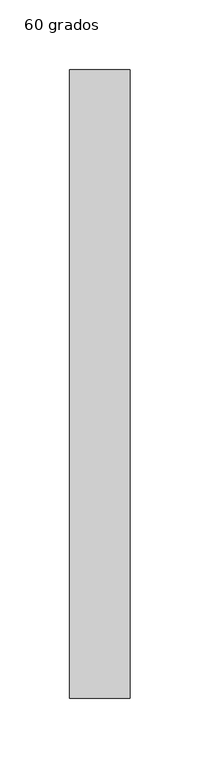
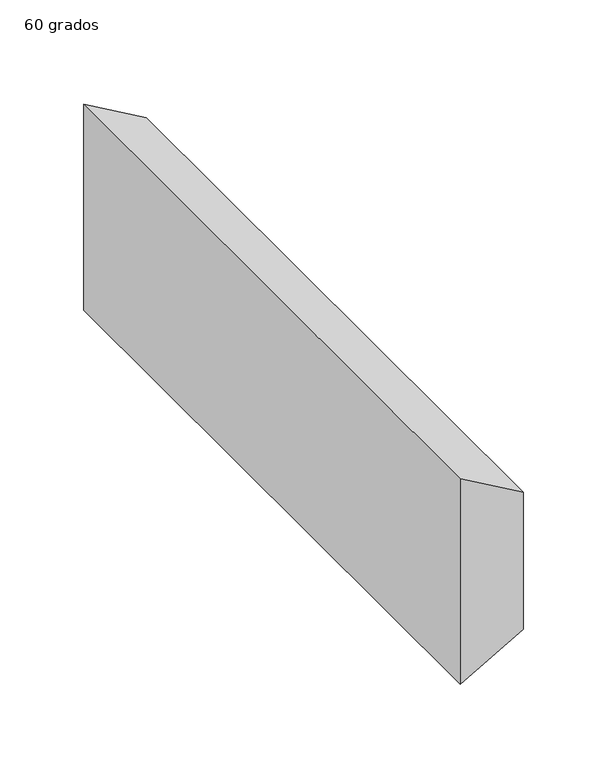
"""IFC4 building model written with IfcOpenShell, lengths in millimetres: duct fitting geometry, M_Transición rectangular - Ángulo : 60 grados."""

import ifcopenshell
import ifcopenshell.guid

model = None  # the IFC model being written
_history = None  # IfcOwnerHistory: only IFC2X3 demands one
_inside = {}  # id of a spatial element -> (the spatial element, [elements in it])
_under = {}  # id of a project, library or spatial element -> (it, [spatial elements below it])
_declared = {}  # id of a project -> (the project, [libraries it declares])
_typed = {}  # id of a type object -> (the type object, [elements of that type])
_made_of = {}  # id of a material, layer set ... -> (it, [elements and type objects made of it])


def new_model(schema):
    """Start an empty IFC model of exactly this schema.

    Asked for "IFC4X3", IfcOpenShell would pick the latest addendum, in which some entities
    have other attributes; the version numbers below select the first issue.
    IFC2X3 requires an IfcOwnerHistory on every rooted entity: one is made here for all.
    """
    global model, _history
    if schema == "IFC4X3":
        model = ifcopenshell.file(schema_version=(4, 3, 0, 0))
    else:
        model = ifcopenshell.file(schema=schema)
    _inside.clear()
    _under.clear()
    _declared.clear()
    _typed.clear()
    _made_of.clear()
    _history = None
    if model.schema == "IFC2X3":
        org = make("IfcOrganization", Name="unknown")
        user = make(
            "IfcPersonAndOrganization",
            ThePerson=make("IfcPerson", FamilyName="unknown"),
            TheOrganization=org,
        )
        app = make(
            "IfcApplication",
            ApplicationDeveloper=org,
            Version="unknown",
            ApplicationFullName="unknown",
            ApplicationIdentifier="unknown",
        )
        _history = make(
            "IfcOwnerHistory",
            OwningUser=user,
            OwningApplication=app,
            ChangeAction="ADDED",
            CreationDate=0,
        )
    return model


def make(cls, **values):
    """One entity of the class cls with the attributes given. An attribute that is None is left unset."""
    return model.create_entity(
        cls, **{name: value for name, value in values.items() if value is not None}
    )


def rooted(cls, **values):
    """An entity with a GlobalId (a new one), such as an element, a storey or a relation."""
    return make(cls, GlobalId=ifcopenshell.guid.new(), OwnerHistory=_history, **values)


def si_unit(unit_type, name, prefix=None):
    """IfcSIUnit, for example si_unit("LENGTHUNIT", "METRE", prefix="MILLI")."""
    return make("IfcSIUnit", UnitType=unit_type, Prefix=prefix, Name=name)


def assignment(units):
    """IfcUnitAssignment: the units of a project."""
    return None if units is None else make("IfcUnitAssignment", Units=units)


def point(xyz):
    """IfcCartesianPoint."""
    return None if xyz is None else make("IfcCartesianPoint", Coordinates=xyz)


def direction(xyz):
    """IfcDirection."""
    return None if xyz is None else make("IfcDirection", DirectionRatios=xyz)


def frame(location, z_axis=None, x_axis=None):
    """IfcAxis2Placement3D, a coordinate frame: its origin and axes. An axis left out is left unset."""
    return make(
        "IfcAxis2Placement3D",
        Location=point(location),
        Axis=direction(z_axis),
        RefDirection=direction(x_axis),
    )


def origin():
    """The frame at (0, 0, 0) with its axes left unset."""
    return frame((0.0, 0.0, 0.0))


def place(relative_to, where):
    """IfcLocalPlacement: puts the frame where relative to a parent placement (None: the world)."""
    return make(
        "IfcLocalPlacement", PlacementRelTo=relative_to, RelativePlacement=where
    )


def context(
    kind, dimensions, precision=None, world=None, true_north=None, identifier=None
):
    """IfcGeometricRepresentationContext, for example the 3D "Model" context."""
    return make(
        "IfcGeometricRepresentationContext",
        ContextIdentifier=identifier,
        ContextType=kind,
        CoordinateSpaceDimension=dimensions,
        Precision=precision,
        WorldCoordinateSystem=world,
        TrueNorth=true_north,
    )


def project(units=None, contexts=None):
    """IfcProject with its units and contexts."""
    return rooted(
        "IfcProject",
        Name="project",
        RepresentationContexts=contexts,
        UnitsInContext=assignment(units),
    )


def spatial(cls, under=None, at=None, **own):
    """A site, building, storey or space (cls), placed at a placement, below another one or the project."""
    s = rooted(cls, ObjectPlacement=at, **own)
    if under is not None:
        _under.setdefault(under.id(), (under, []))[1].append(s)
    return s


def polyline(points):
    """IfcPolyline through the points."""
    return make("IfcPolyline", Points=[point(p) for p in points])


def outline(outer, holes=None, kind="AREA"):
    """IfcArbitraryClosedProfileDef: a profile drawn as a closed curve; with holes, ...WithVoids."""
    if holes is None:
        return make("IfcArbitraryClosedProfileDef", ProfileType=kind, OuterCurve=outer)
    return make(
        "IfcArbitraryProfileDefWithVoids",
        ProfileType=kind,
        OuterCurve=outer,
        InnerCurves=holes,
    )


def extrude(swept, where, along, depth):
    """IfcExtrudedAreaSolid: the profile swept, set in the frame where, extruded along a direction by depth."""
    return make(
        "IfcExtrudedAreaSolid",
        SweptArea=swept,
        Position=where,
        ExtrudedDirection=direction(along),
        Depth=depth,
    )


def shape(context_of_items, identifier, shape_type, items):
    """IfcShapeRepresentation: the items that make up one representation, for example the "Body"."""
    return make(
        "IfcShapeRepresentation",
        ContextOfItems=context_of_items,
        RepresentationIdentifier=identifier,
        RepresentationType=shape_type,
        Items=items,
    )


def source(mapping_origin, context_of_items, identifier, shape_type, items):
    """IfcRepresentationMap: a shape defined once, which mapped items show again and again."""
    return make(
        "IfcRepresentationMap",
        MappingOrigin=mapping_origin,
        MappedRepresentation=shape(context_of_items, identifier, shape_type, items),
    )


def transform(
    local_origin,
    x_axis=None,
    y_axis=None,
    z_axis=None,
    scale=None,
    scale2=None,
    scale3=None,
    uniform=True,
):
    """IfcCartesianTransformationOperator3D, or its non-uniform kind. x_axis, y_axis, z_axis: its Axis1, 2, 3."""
    if uniform:
        return make(
            "IfcCartesianTransformationOperator3D",
            Axis1=direction(x_axis),
            Axis2=direction(y_axis),
            LocalOrigin=point(local_origin),
            Scale=scale,
            Axis3=direction(z_axis),
        )
    return make(
        "IfcCartesianTransformationOperator3DnonUniform",
        Axis1=direction(x_axis),
        Axis2=direction(y_axis),
        LocalOrigin=point(local_origin),
        Scale=scale,
        Axis3=direction(z_axis),
        Scale2=scale2,
        Scale3=scale3,
    )


def mapped(mapping_source, mapping_target):
    """IfcMappedItem: shows the shape of a source again, moved by a transform."""
    return make(
        "IfcMappedItem", MappingSource=mapping_source, MappingTarget=mapping_target
    )


def made_of(thing, what):
    """Note that an element or type object is made of a material, layer set ...; save() writes the relation."""
    if what is not None:
        _made_of.setdefault(what.id(), (what, []))[1].append(thing)
    return thing


def element(
    cls,
    number,
    at=None,
    inside=None,
    cuts=None,
    type_object=None,
    material=None,
    context=None,
    identifier="Body",
    shape_type=None,
    held_by="IfcProductDefinitionShape",
    body=None,
    shapes=None,
    **own,
):
    """One element of the class cls, such as IfcWall. Its Tag is "e" and its number.

    at: its placement. inside: the storey or other place that contains it. cuts: it is an
    opening in that element (IfcRelVoidsElement). A single representation is given by context,
    identifier, shape_type and body (its items); several are given by shapes. held_by: the class
    of the entity that holds the representations. save() writes the other relations.
    """
    e = rooted(cls, Tag="e%d" % number, ObjectPlacement=at, **own)
    if body is not None:
        shapes = [shape(context, identifier, shape_type, body)]
    if shapes is not None:
        e.Representation = make(held_by, Representations=shapes)
    if inside is not None:
        _inside.setdefault(inside.id(), (inside, []))[1].append(e)
    if cuts is not None:
        rooted(
            "IfcRelVoidsElement", RelatingBuildingElement=cuts, RelatedOpeningElement=e
        )
    if type_object is not None:
        _typed.setdefault(type_object.id(), (type_object, []))[1].append(e)
    return made_of(e, material)


def aggregate(whole, parts):
    """IfcRelAggregates: a whole, such as a stair, and the parts it consists of."""
    return rooted("IfcRelAggregates", RelatingObject=whole, RelatedObjects=parts)


def save(model, path):
    """Write the relations noted so far, then the file.

    IfcRelAggregates (storeys below a building ...), IfcRelContainedInSpatialStructure (elements
    in a storey), IfcRelDefinesByType, IfcRelAssociatesMaterial and IfcRelDeclares: one each for
    every whole, place, type object, material and project.
    """
    for whole, parts in _under.values():
        aggregate(whole, parts)
    for where, things in _inside.values():
        rooted(
            "IfcRelContainedInSpatialStructure",
            RelatedElements=things,
            RelatingStructure=where,
        )
    for kind, things in _typed.values():
        rooted("IfcRelDefinesByType", RelatedObjects=things, RelatingType=kind)
    for what, things in _made_of.values():
        rooted("IfcRelAssociatesMaterial", RelatedObjects=things, RelatingMaterial=what)
    for by, libraries in _declared.values():
        rooted("IfcRelDeclares", RelatingContext=by, RelatedDefinitions=libraries)
    model.write(path)


def duct_fitting_60_grados_2bdb4db0(model_context):
    return source(origin(), model_context, "Body", "SweptSolid", [
        extrude(outline(polyline([(75.0, 0.0), (-75.0, 0.0), (-50.0, 43.3012702), (50.0, 43.3012702), (75.0, 0.0)])), frame((0.0, -225.0, 0.0), z_axis=(0.0, 1.0, 0.0), x_axis=(0.0, 0.0, 1.0)), (0.0, 0.0, 1.0), 450.0),
    ])


if __name__ == "__main__":
    model = new_model("IFC4")
    model_context = context("Model", 3, world=origin())
    ifc_project = project(units=[si_unit("LENGTHUNIT", "METRE", prefix="MILLI")], contexts=[model_context])
    site = spatial("IfcSite", under=ifc_project)
    building = spatial("IfcBuilding", under=site)
    placement = place(None, origin())
    duct_fitting_60_grados_shape = duct_fitting_60_grados_2bdb4db0(model_context)
    element("IfcDuctFitting", 1, ObjectType="M_Transición rectangular - Ángulo : 60 grados", at=placement, inside=building, context=model_context, shape_type="MappedRepresentation", body=[
        mapped(duct_fitting_60_grados_shape, transform((0.0, 0.0, 0.0), x_axis=(1.0, 0.0, 0.0), y_axis=(0.0, 1.0, 0.0), z_axis=(0.0, 0.0, 1.0))),
    ])
    save(model, "model.ifc")
